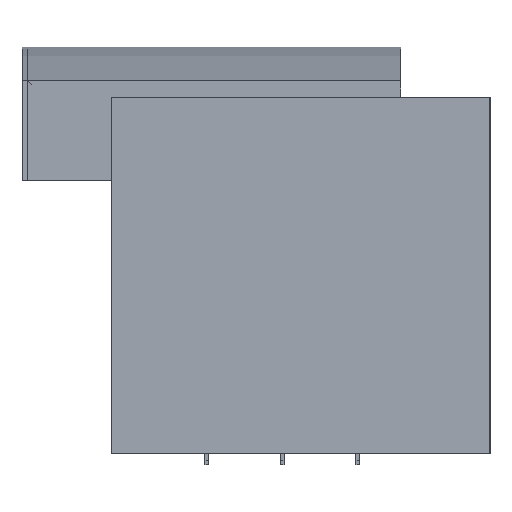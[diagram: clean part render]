
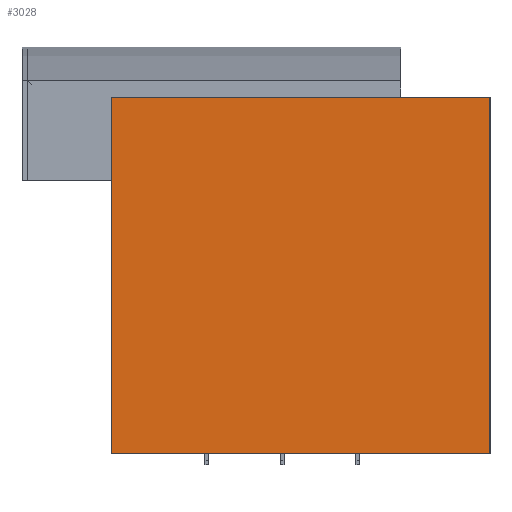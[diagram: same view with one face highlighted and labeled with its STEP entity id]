
A CAD part, left-side view. The second image highlights one B-rep face of the part: STEP entity #3028.
In plain terms, the highlighted planar face has unit normal (-1, 0, 0).
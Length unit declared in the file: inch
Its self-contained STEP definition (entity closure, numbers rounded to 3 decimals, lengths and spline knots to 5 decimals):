
#629=FACE_OUTER_BOUND('',#791,.T.);
#791=EDGE_LOOP('',(#2229,#2230,#2231,#2232));
#974=LINE('',#4361,#1302);
#976=LINE('',#4365,#1304);
#977=LINE('',#4367,#1305);
#978=LINE('',#4368,#1306);
#1302=VECTOR('',#3625,0.3937);
#1304=VECTOR('',#3629,0.3937);
#1305=VECTOR('',#3630,0.3937);
#1306=VECTOR('',#3631,0.3937);
#1621=VERTEX_POINT('',#4358);
#1622=VERTEX_POINT('',#4360);
#1623=VERTEX_POINT('',#4364);
#1624=VERTEX_POINT('',#4366);
#1858=EDGE_CURVE('',#1622,#1621,#974,.T.);
#1860=EDGE_CURVE('',#1621,#1623,#976,.T.);
#1861=EDGE_CURVE('',#1624,#1623,#977,.T.);
#1862=EDGE_CURVE('',#1622,#1624,#978,.T.);
#2229=ORIENTED_EDGE('',*,*,#1860,.T.);
#2230=ORIENTED_EDGE('',*,*,#1861,.F.);
#2231=ORIENTED_EDGE('',*,*,#1862,.F.);
#2232=ORIENTED_EDGE('',*,*,#1858,.T.);
#2873=PLANE('',#3382);
#3028=ADVANCED_FACE('',(#629),#2873,.T.);
#3382=AXIS2_PLACEMENT_3D('',#4363,#3627,#3628);
#3625=DIRECTION('',(0.,-1.,0.));
#3627=DIRECTION('center_axis',(-1.,0.,0.));
#3628=DIRECTION('ref_axis',(0.,0.,-1.));
#3629=DIRECTION('',(0.,0.,1.));
#3630=DIRECTION('',(0.,-1.,0.));
#3631=DIRECTION('',(0.,0.,1.));
#4358=CARTESIAN_POINT('',(0.,0.,-30.5));
#4360=CARTESIAN_POINT('',(0.,34.,-30.5));
#4361=CARTESIAN_POINT('',(0.,34.,-30.5));
#4363=CARTESIAN_POINT('Origin',(0.,34.,1.5));
#4364=CARTESIAN_POINT('',(0.,0.,1.5));
#4365=CARTESIAN_POINT('',(0.,0.,-6.5));
#4366=CARTESIAN_POINT('',(0.,34.,1.5));
#4367=CARTESIAN_POINT('',(0.,34.,1.5));
#4368=CARTESIAN_POINT('',(0.,34.,-30.5));
